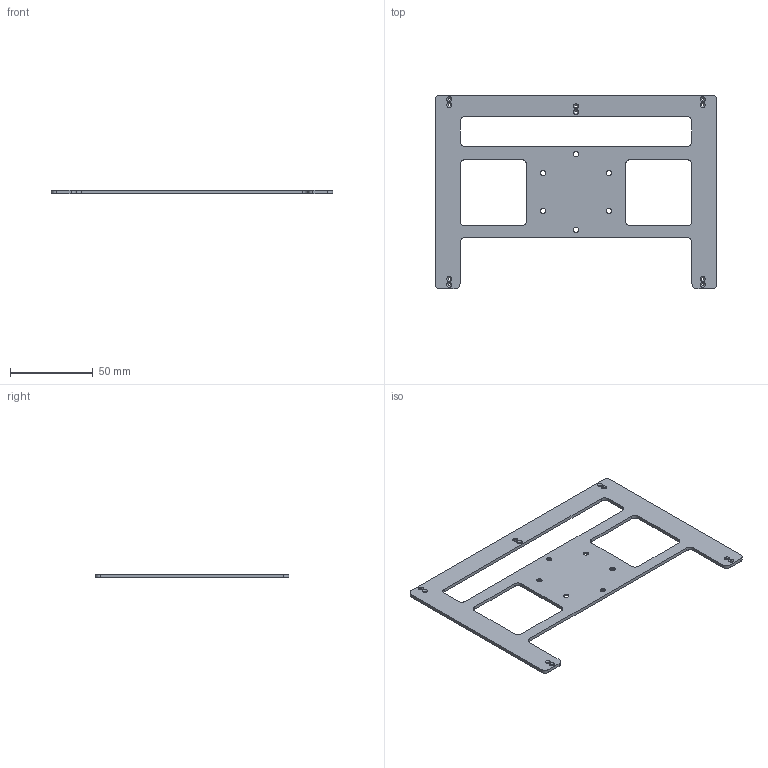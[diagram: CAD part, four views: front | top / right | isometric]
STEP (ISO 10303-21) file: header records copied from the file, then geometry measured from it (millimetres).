
FILE_DESCRIPTION(('FreeCAD Model'),'2;1');
FILE_NAME('Open CASCADE Shape Model','2025-06-20T14:46:34',(''),(''), 'Open CASCADE STEP processor 7.6','FreeCAD','Unknown');
FILE_SCHEMA(('CONFIG_CONTROL_DESIGN','SHAPE_APPEARANCE_LAYER_MIM'));
Length unit declared in the file: millimetre
Products named in the file (1): TopSingleCCDSupportFrame
Bounding box: 170 x 117 x 2 mm (x, y, z)
Volume: 19478 mm3; surface area: 22222.3 mm2
Topology: 1 solids, 1 shells, 74 faces, 200 edges, 128 vertices
Faces by surface type: cylinder 36, plane 22, cone 16
Full cylindrical faces by diameter (mm): 1.7 x10, 3.2 x6
Entity records: 2472 total; most frequent: DIRECTION 438, CARTESIAN_POINT 403, ORIENTED_EDGE 400, EDGE_CURVE 200, AXIS2_PLACEMENT_3D 163, VERTEX_POINT 128, FACE_BOUND 112, EDGE_LOOP 112
